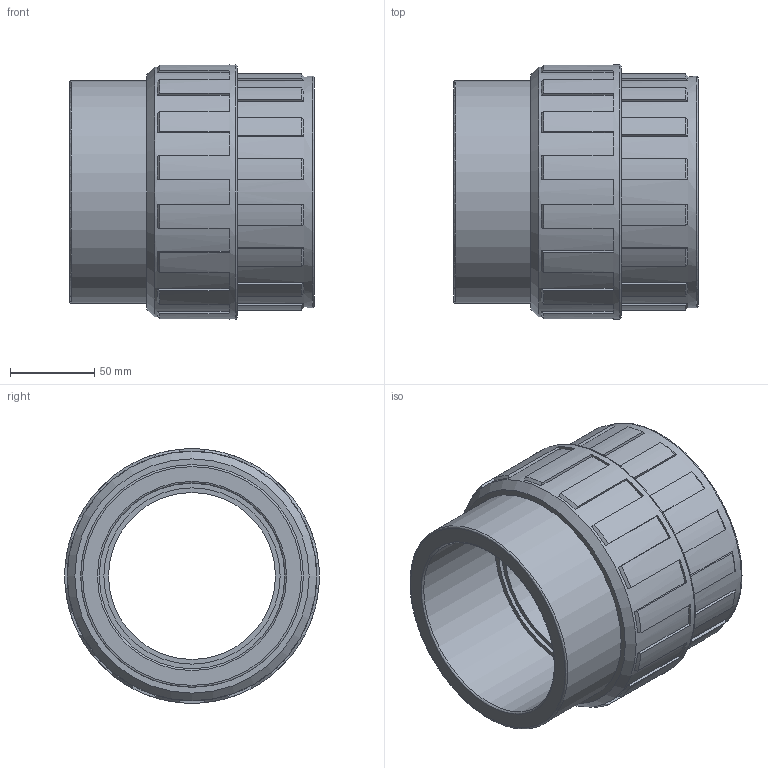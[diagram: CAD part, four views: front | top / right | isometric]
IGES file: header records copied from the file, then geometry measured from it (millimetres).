
Global section: file name: 050800110.ipt; native system: Autodesk Inventor 2015; preprocessor: unknown; author: Кирилл,,11,0; organization: 20171003.032032; date: 20171207.164916; units: millimetre
Bounding box: 145 x 151 x 151 mm (x, y, z)
Volume: 912475.8 mm3; surface area: 135271.2 mm2
Topology: 1 solids, 1 shells, 149 faces, 438 edges, 296 vertices
Faces by surface type: plane 87, cone 33, cylinder 20, revolution 9
Full cylindrical faces by diameter (mm): 132 x1, 137.5 x1, 147.98 x1, 151 x1
